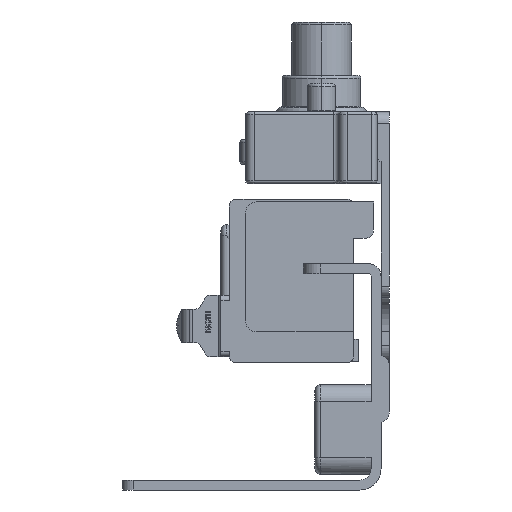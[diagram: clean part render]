
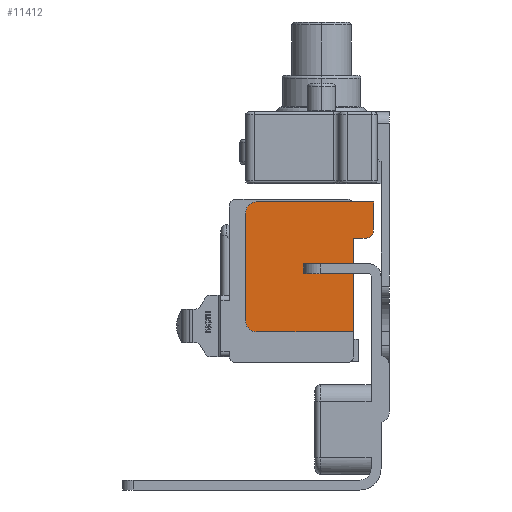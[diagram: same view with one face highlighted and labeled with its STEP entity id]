
A CAD part, left-side view. The second image highlights one B-rep face of the part: STEP entity #11412.
In plain terms, the highlighted planar face has unit normal (-1, 0, 0).
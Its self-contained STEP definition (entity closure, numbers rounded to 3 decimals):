
#33 = CARTESIAN_POINT ( 'NONE',  ( -64.1, 1.33, -16.865 ) ) ;
#249 = CARTESIAN_POINT ( 'NONE',  ( -64.1, 20.06, -18.365 ) ) ;
#331 = EDGE_CURVE ( 'NONE', #11349, #14007, #12068, .T. ) ;
#691 = EDGE_CURVE ( 'NONE', #10451, #11349, #4223, .T. ) ;
#738 = VERTEX_POINT ( 'NONE', #4707 ) ;
#935 = PLANE ( 'NONE',  #6191 ) ;
#1032 = CARTESIAN_POINT ( 'NONE',  ( -64.1, 1.33, -11.895 ) ) ;
#1114 = VERTEX_POINT ( 'NONE', #4167 ) ;
#1116 = CIRCLE ( 'NONE', #9353, 1.5 ) ;
#1117 = CARTESIAN_POINT ( 'NONE',  ( -64.1, 24.13, -32.995 ) ) ;
#1224 = CARTESIAN_POINT ( 'NONE',  ( -64.1, 4.9, -26.295 ) ) ;
#1257 = EDGE_CURVE ( 'NONE', #3360, #4756, #10025, .T. ) ;
#1659 = CARTESIAN_POINT ( 'NONE',  ( -64.1, 1.33, -11.895 ) ) ;
#1766 = ORIENTED_EDGE ( 'NONE', *, *, #14070, .F. ) ;
#1854 = CARTESIAN_POINT ( 'NONE',  ( -64.1, 4.9, -22.86 ) ) ;
#1864 = CARTESIAN_POINT ( 'NONE',  ( -64.1, 4.9, -34.995 ) ) ;
#1942 = EDGE_CURVE ( 'NONE', #4756, #738, #10173, .T. ) ;
#2110 = DIRECTION ( 'NONE',  ( 1., 0., 0. ) ) ;
#2134 = ORIENTED_EDGE ( 'NONE', *, *, #14942, .T. ) ;
#2283 = FACE_OUTER_BOUND ( 'NONE', #13118, .T. ) ;
#2301 = LINE ( 'NONE', #1032, #14414 ) ;
#2511 = ORIENTED_EDGE ( 'NONE', *, *, #4807, .T. ) ;
#2802 = VERTEX_POINT ( 'NONE', #13063 ) ;
#2869 = AXIS2_PLACEMENT_3D ( 'NONE', #13548, #6501, #14750 ) ;
#2971 = EDGE_CURVE ( 'NONE', #3360, #10451, #10004, .T. ) ;
#3353 = VECTOR ( 'NONE', #11329, 1000. ) ;
#3360 = VERTEX_POINT ( 'NONE', #4221 ) ;
#3429 = DIRECTION ( 'NONE',  ( 1., 0., 0. ) ) ;
#4049 = DIRECTION ( 'NONE',  ( 0., -1., 0. ) ) ;
#4074 = CARTESIAN_POINT ( 'NONE',  ( -64.1, 1.33, -18.365 ) ) ;
#4126 = DIRECTION ( 'NONE',  ( 0., 0., 1. ) ) ;
#4167 = CARTESIAN_POINT ( 'NONE',  ( -64.1, 13.821, -24.63 ) ) ;
#4221 = CARTESIAN_POINT ( 'NONE',  ( -64.1, 22.13, -34.995 ) ) ;
#4223 = LINE ( 'NONE', #1117, #7665 ) ;
#4336 = CARTESIAN_POINT ( 'NONE',  ( -64.1, 13.821, -22.86 ) ) ;
#4518 = ORIENTED_EDGE ( 'NONE', *, *, #13164, .T. ) ;
#4632 = VERTEX_POINT ( 'NONE', #1659 ) ;
#4707 = CARTESIAN_POINT ( 'NONE',  ( -64.1, 4.9, -24.63 ) ) ;
#4756 = VERTEX_POINT ( 'NONE', #1864 ) ;
#4807 = EDGE_CURVE ( 'NONE', #8163, #8715, #12647, .T. ) ;
#5219 = DIRECTION ( 'NONE',  ( 0., 0., 1. ) ) ;
#5862 = ORIENTED_EDGE ( 'NONE', *, *, #2971, .F. ) ;
#6059 = VERTEX_POINT ( 'NONE', #10960 ) ;
#6175 = ORIENTED_EDGE ( 'NONE', *, *, #14680, .T. ) ;
#6191 = AXIS2_PLACEMENT_3D ( 'NONE', #7909, #2110, #10260 ) ;
#6278 = EDGE_CURVE ( 'NONE', #6059, #8715, #11145, .T. ) ;
#6501 = DIRECTION ( 'NONE',  ( 1., 0., 0. ) ) ;
#6610 = LINE ( 'NONE', #4074, #8961 ) ;
#6767 = CARTESIAN_POINT ( 'NONE',  ( -64.1, 22.13, -11.895 ) ) ;
#6822 = CARTESIAN_POINT ( 'NONE',  ( -64.1, 22.13, -13.895 ) ) ;
#7023 = DIRECTION ( 'NONE',  ( 1., 0., 0. ) ) ;
#7057 = VERTEX_POINT ( 'NONE', #33 ) ;
#7242 = CARTESIAN_POINT ( 'NONE',  ( -64.1, 24.13, -32.995 ) ) ;
#7330 = DIRECTION ( 'NONE',  ( 0., 0., -1. ) ) ;
#7665 = VECTOR ( 'NONE', #9693, 1000. ) ;
#7909 = CARTESIAN_POINT ( 'NONE',  ( -64.1, 21.53, -26.295 ) ) ;
#7935 = CARTESIAN_POINT ( 'NONE',  ( -64.1, 4.9, -34.995 ) ) ;
#8047 = VECTOR ( 'NONE', #9115, 1000. ) ;
#8163 = VERTEX_POINT ( 'NONE', #4336 ) ;
#8447 = CARTESIAN_POINT ( 'NONE',  ( -64.1, 12.15, -24.63 ) ) ;
#8505 = VECTOR ( 'NONE', #10787, 1000. ) ;
#8715 = VERTEX_POINT ( 'NONE', #1854 ) ;
#8928 = CARTESIAN_POINT ( 'NONE',  ( -64.1, 24.13, -13.895 ) ) ;
#8961 = VECTOR ( 'NONE', #5219, 1000. ) ;
#9115 = DIRECTION ( 'NONE',  ( 0., 0., -1. ) ) ;
#9182 = DIRECTION ( 'NONE',  ( 0., 1., 0. ) ) ;
#9353 = AXIS2_PLACEMENT_3D ( 'NONE', #10382, #3429, #11568 ) ;
#9541 = EDGE_CURVE ( 'NONE', #738, #1114, #14803, .T. ) ;
#9693 = DIRECTION ( 'NONE',  ( 0., 0., 1. ) ) ;
#9829 = VECTOR ( 'NONE', #11731, 1000. ) ;
#10004 = CIRCLE ( 'NONE', #2869, 2. ) ;
#10025 = LINE ( 'NONE', #12350, #12782 ) ;
#10158 = CARTESIAN_POINT ( 'NONE',  ( -64.1, 12.42, -22.86 ) ) ;
#10173 = LINE ( 'NONE', #1224, #9829 ) ;
#10260 = DIRECTION ( 'NONE',  ( 0., 0., 1. ) ) ;
#10382 = CARTESIAN_POINT ( 'NONE',  ( -64.1, 2.83, -16.865 ) ) ;
#10451 = VERTEX_POINT ( 'NONE', #7242 ) ;
#10654 = LINE ( 'NONE', #14693, #11015 ) ;
#10787 = DIRECTION ( 'NONE',  ( 0., 1., 0. ) ) ;
#10960 = CARTESIAN_POINT ( 'NONE',  ( -64.1, 4.9, -18.365 ) ) ;
#11015 = VECTOR ( 'NONE', #4126, 1000. ) ;
#11145 = LINE ( 'NONE', #7935, #8047 ) ;
#11329 = DIRECTION ( 'NONE',  ( 0., -1., 0. ) ) ;
#11349 = VERTEX_POINT ( 'NONE', #8928 ) ;
#11412 = ADVANCED_FACE ( 'NONE', ( #2283 ), #935, .F. ) ;
#11438 = ORIENTED_EDGE ( 'NONE', *, *, #6278, .F. ) ;
#11482 = AXIS2_PLACEMENT_3D ( 'NONE', #6822, #7023, #7330 ) ;
#11568 = DIRECTION ( 'NONE',  ( 0., 0., 1. ) ) ;
#11731 = DIRECTION ( 'NONE',  ( 0., 0., 1. ) ) ;
#11782 = ORIENTED_EDGE ( 'NONE', *, *, #9541, .T. ) ;
#11783 = LINE ( 'NONE', #249, #14600 ) ;
#11801 = EDGE_CURVE ( 'NONE', #1114, #8163, #10654, .T. ) ;
#11898 = DIRECTION ( 'NONE',  ( 0., -1., 0. ) ) ;
#11970 = ORIENTED_EDGE ( 'NONE', *, *, #691, .F. ) ;
#12068 = CIRCLE ( 'NONE', #11482, 2. ) ;
#12350 = CARTESIAN_POINT ( 'NONE',  ( -64.1, 21.53, -34.995 ) ) ;
#12647 = LINE ( 'NONE', #10158, #3353 ) ;
#12782 = VECTOR ( 'NONE', #4049, 1000. ) ;
#12883 = ORIENTED_EDGE ( 'NONE', *, *, #11801, .T. ) ;
#13063 = CARTESIAN_POINT ( 'NONE',  ( -64.1, 2.83, -18.365 ) ) ;
#13068 = ORIENTED_EDGE ( 'NONE', *, *, #1257, .T. ) ;
#13118 = EDGE_LOOP ( 'NONE', ( #2511, #11438, #2134, #1766, #4518, #6175, #13660, #11970, #5862, #13068, #14207, #11782, #12883 ) ) ;
#13164 = EDGE_CURVE ( 'NONE', #7057, #4632, #6610, .T. ) ;
#13548 = CARTESIAN_POINT ( 'NONE',  ( -64.1, 22.13, -32.995 ) ) ;
#13660 = ORIENTED_EDGE ( 'NONE', *, *, #331, .F. ) ;
#14007 = VERTEX_POINT ( 'NONE', #6767 ) ;
#14070 = EDGE_CURVE ( 'NONE', #7057, #2802, #1116, .T. ) ;
#14207 = ORIENTED_EDGE ( 'NONE', *, *, #1942, .T. ) ;
#14414 = VECTOR ( 'NONE', #9182, 1000. ) ;
#14600 = VECTOR ( 'NONE', #11898, 1000. ) ;
#14680 = EDGE_CURVE ( 'NONE', #4632, #14007, #2301, .T. ) ;
#14693 = CARTESIAN_POINT ( 'NONE',  ( -64.1, 13.821, -24.63 ) ) ;
#14750 = DIRECTION ( 'NONE',  ( 0., 0., -1. ) ) ;
#14803 = LINE ( 'NONE', #8447, #8505 ) ;
#14942 = EDGE_CURVE ( 'NONE', #6059, #2802, #11783, .T. ) ;
